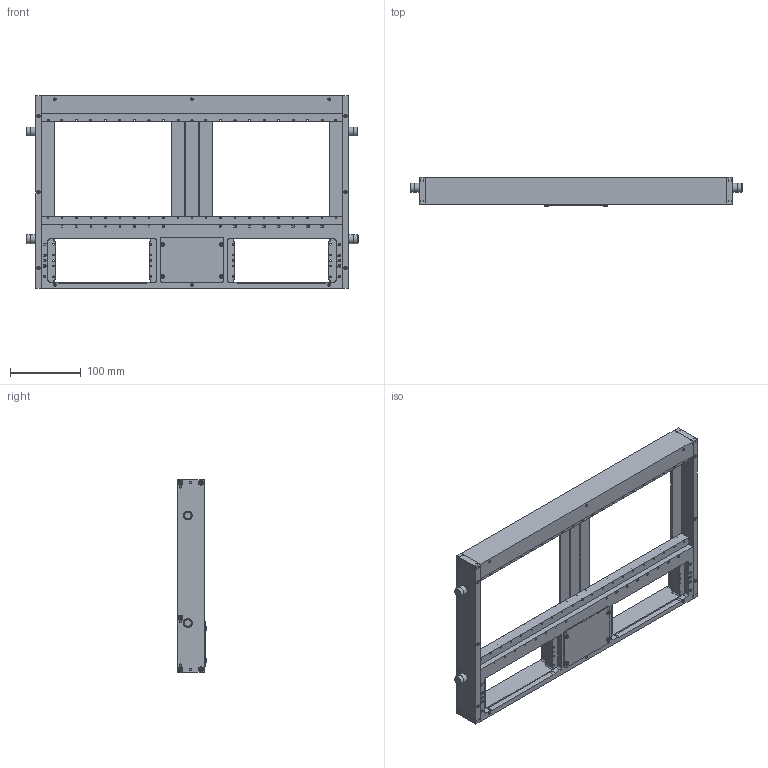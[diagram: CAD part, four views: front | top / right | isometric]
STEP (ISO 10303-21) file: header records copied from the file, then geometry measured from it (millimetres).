
FILE_DESCRIPTION((''),'2;1');
FILE_NAME('C:\copy my documents\Inventor\web site project\ITAs\561912-RevA-STP.stp','2013-09-18T12:26:35',('davecooper'),(''),'Autodesk Inventor 2011','Autodesk Inventor 2011','');
FILE_SCHEMA(('AUTOMOTIVE_DESIGN { 1 0 10303 214 1 1 1 1 }'));
Length unit declared in the file: inch
Products named in the file (1): 561912-CU
Bounding box: 470.41 x 41.66 x 273.05 mm (x, y, z)
Surface area: 317895.9 mm2 (no closed solid volume)
Topology: 0 solids, 92 shells, 1947 faces, 4548 edges, 2926 vertices
Faces by surface type: plane 1028, bspline 388, cylinder 299, cone 208, sphere 20, torus 4
Full cylindrical faces by diameter (mm): 0.051 x24, 2.159 x45, 2.642 x6, 2.769 x2, 2.845 x35, 3.175 x18, 3.429 x4, 3.454 x4, 3.505 x17, 3.683 x3, 3.81 x10, 4.521 x6, 5.41 x10, 5.573 x4, 6.655 x10, 7.144 x20, 7.747 x4, 7.938 x4, 8.014 x4, 9.271 x4, 9.462 x4, 9.538 x8, 11.1 x4, 12.675 x8
Entity records: 63802 total; most frequent: CARTESIAN_POINT 21460, ORIENTED_EDGE 8136, DIRECTION 7122, EDGE_CURVE 4068, VERTEX_POINT 2796, EDGE_LOOP 2668, AXIS2_PLACEMENT_3D 2498, VECTOR 2126
